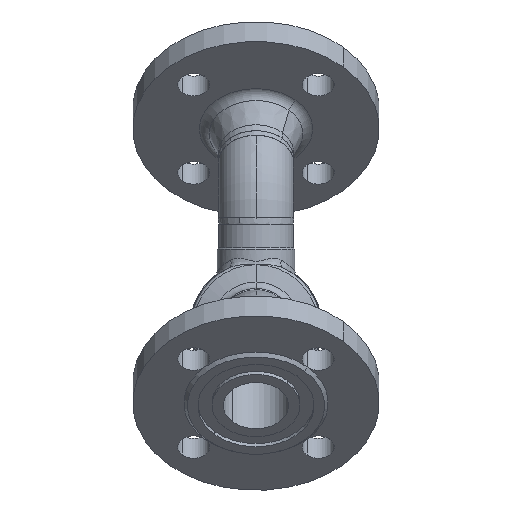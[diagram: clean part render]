
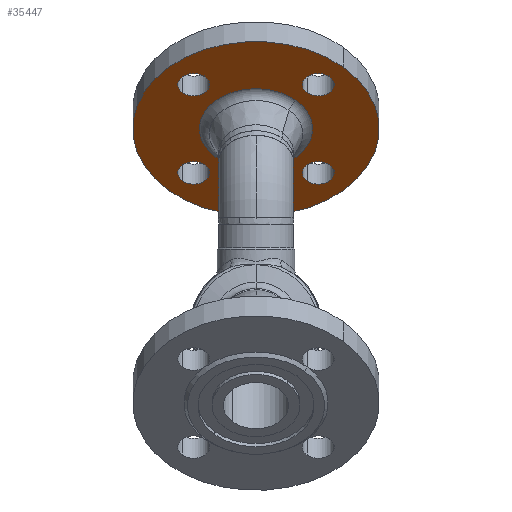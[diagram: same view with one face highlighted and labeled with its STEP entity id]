
A CAD part, front view. The second image highlights one B-rep face of the part: STEP entity #35447.
In plain terms, the highlighted planar face has unit normal (0, -0.707, -0.707) as drawn and (0, 1, 0) by its records, which use the part's own axes.
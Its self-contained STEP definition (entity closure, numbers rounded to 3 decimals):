
#32839 = EDGE_CURVE ( 'NONE', #35243, #32231, #35404, .T. ) ;
#16972 = ORIENTED_EDGE ( 'NONE', *, *, #8260, .F. ) ;
#49751 = ORIENTED_EDGE ( 'NONE', *, *, #48749, .F. ) ;
#33387 = ORIENTED_EDGE ( 'NONE', *, *, #32380, .F. ) ;
#34030 = CARTESIAN_POINT ( 'NONE',  ( -9., 18., 50. ) ) ;
#50569 = CARTESIAN_POINT ( 'NONE',  ( 41., 18., 0. ) ) ;
#1662 = EDGE_LOOP ( 'NONE', ( #54717, #51825 ) ) ;
#34424 = CIRCLE ( 'NONE', #34425, 9. ) ;
#34425 = AXIS2_PLACEMENT_3D ( 'NONE', #34426, #34427, #34428 ) ;
#34426 = CARTESIAN_POINT ( 'NONE',  ( 0., 18., 50. ) ) ;
#34427 = DIRECTION ( 'NONE',  ( 0., 1., 0. ) ) ;
#34428 = DIRECTION ( 'NONE',  ( 0., 0., -1. ) ) ;
#50815 = CIRCLE ( 'NONE', #50816, 70. ) ;
#50816 = AXIS2_PLACEMENT_3D ( 'NONE', #50817, #50818, #50819 ) ;
#50817 = CARTESIAN_POINT ( 'NONE',  ( 0., 18., 0. ) ) ;
#50818 = DIRECTION ( 'NONE',  ( 0., 1., 0. ) ) ;
#50819 = DIRECTION ( 'NONE',  ( -1., 0., 0. ) ) ;
#18275 = EDGE_CURVE ( 'NONE', #7455, #11446, #43655, .T. ) ;
#51166 = EDGE_LOOP ( 'NONE', ( #49751, #47337 ) ) ;
#34789 = EDGE_LOOP ( 'NONE', ( #33387, #2524 ) ) ;
#34844 = CIRCLE ( 'NONE', #34845, 9. ) ;
#34845 = AXIS2_PLACEMENT_3D ( 'NONE', #34846, #34847, #34848 ) ;
#34846 = CARTESIAN_POINT ( 'NONE',  ( 0., 18., -50. ) ) ;
#34847 = DIRECTION ( 'NONE',  ( 0., 1., 0. ) ) ;
#34848 = DIRECTION ( 'NONE',  ( 0., 0., 1. ) ) ;
#51273 = CIRCLE ( 'NONE', #51274, 9. ) ;
#51274 = AXIS2_PLACEMENT_3D ( 'NONE', #51275, #51276, #51277 ) ;
#51275 = CARTESIAN_POINT ( 'NONE',  ( 50., 18., 0. ) ) ;
#51276 = DIRECTION ( 'NONE',  ( 0., 1., 0. ) ) ;
#51277 = DIRECTION ( 'NONE',  ( -1., 0., 0. ) ) ;
#51278 = CARTESIAN_POINT ( 'NONE',  ( 32.147, 18., 0. ) ) ;
#51430 = FACE_BOUND ( 'NONE', #34789, .T. ) ;
#51431 = FACE_BOUND ( 'NONE', #1662, .T. ) ;
#51432 = FACE_BOUND ( 'NONE', #51166, .T. ) ;
#51433 = FACE_BOUND ( 'NONE', #46678, .T. ) ;
#51434 = FACE_BOUND ( 'NONE', #16311, .T. ) ;
#51435 = FACE_OUTER_BOUND ( 'NONE', #12707, .T. ) ;
#51436 = PLANE ( 'NONE',  #51437 ) ;
#51437 = AXIS2_PLACEMENT_3D ( 'NONE', #51438, #51439, #51440 ) ;
#51438 = CARTESIAN_POINT ( 'NONE',  ( 70., 18., 0. ) ) ;
#51439 = DIRECTION ( 'NONE',  ( 0., -1., 0. ) ) ;
#51440 = DIRECTION ( 'NONE',  ( 1., 0., 0. ) ) ;
#35243 = VERTEX_POINT ( 'NONE', #51278 ) ;
#51624 = VERTEX_POINT ( 'NONE', #34030 ) ;
#2524 = ORIENTED_EDGE ( 'NONE', *, *, #28798, .F. ) ;
#35404 = CIRCLE ( 'NONE', #35405, 32.147 ) ;
#35405 = AXIS2_PLACEMENT_3D ( 'NONE', #35406, #35407, #35408 ) ;
#35406 = CARTESIAN_POINT ( 'NONE',  ( 0., 18., 0. ) ) ;
#35407 = DIRECTION ( 'NONE',  ( 0., 1., 0. ) ) ;
#35408 = DIRECTION ( 'NONE',  ( -1., 0., 0. ) ) ;
#35447 = ADVANCED_FACE ( 'NONE', ( #51430, #51431, #51432, #51433, #51434, #51435 ), #51436, .F. ) ;
#51825 = ORIENTED_EDGE ( 'NONE', *, *, #40244, .F. ) ;
#19393 = CARTESIAN_POINT ( 'NONE',  ( 9., 18., -50. ) ) ;
#52234 = EDGE_CURVE ( 'NONE', #54665, #51624, #34424, .T. ) ;
#52349 = CIRCLE ( 'NONE', #52350, 32.147 ) ;
#52350 = AXIS2_PLACEMENT_3D ( 'NONE', #52351, #52352, #52353 ) ;
#52351 = CARTESIAN_POINT ( 'NONE',  ( 0., 18., 0. ) ) ;
#52352 = DIRECTION ( 'NONE',  ( 0., 1., 0. ) ) ;
#52353 = DIRECTION ( 'NONE',  ( -1., 0., 0. ) ) ;
#36504 = EDGE_CURVE ( 'NONE', #32231, #35243, #52349, .T. ) ;
#20337 = VERTEX_POINT ( 'NONE', #46093 ) ;
#53703 = EDGE_CURVE ( 'NONE', #39639, #43121, #48847, .T. ) ;
#20950 = EDGE_CURVE ( 'NONE', #20337, #23373, #46706, .T. ) ;
#21406 = CARTESIAN_POINT ( 'NONE',  ( -32.147, 18., 0. ) ) ;
#54665 = VERTEX_POINT ( 'NONE', #40215 ) ;
#54717 = ORIENTED_EDGE ( 'NONE', *, *, #53703, .F. ) ;
#38338 = CARTESIAN_POINT ( 'NONE',  ( -59., 18., 0. ) ) ;
#38699 = CIRCLE ( 'NONE', #38700, 9. ) ;
#38700 = AXIS2_PLACEMENT_3D ( 'NONE', #38701, #38702, #38703 ) ;
#38701 = CARTESIAN_POINT ( 'NONE',  ( -50., 18., 0. ) ) ;
#38702 = DIRECTION ( 'NONE',  ( 0., 1., 0. ) ) ;
#38703 = DIRECTION ( 'NONE',  ( 1., 0., 0. ) ) ;
#39639 = VERTEX_POINT ( 'NONE', #38338 ) ;
#23373 = VERTEX_POINT ( 'NONE', #32365 ) ;
#40175 = CIRCLE ( 'NONE', #40211, 9. ) ;
#7455 = VERTEX_POINT ( 'NONE', #50569 ) ;
#40211 = AXIS2_PLACEMENT_3D ( 'NONE', #40212, #40213, #40214 ) ;
#40212 = CARTESIAN_POINT ( 'NONE',  ( 0., 18., -50. ) ) ;
#40213 = DIRECTION ( 'NONE',  ( 0., 1., 0. ) ) ;
#40214 = DIRECTION ( 'NONE',  ( 0., 0., 1. ) ) ;
#40215 = CARTESIAN_POINT ( 'NONE',  ( 9., 18., 50. ) ) ;
#40244 = EDGE_CURVE ( 'NONE', #43121, #39639, #38699, .T. ) ;
#7655 = EDGE_CURVE ( 'NONE', #23373, #20337, #50815, .T. ) ;
#8260 = EDGE_CURVE ( 'NONE', #11446, #7455, #51273, .T. ) ;
#8345 = CARTESIAN_POINT ( 'NONE',  ( 59., 18., 0. ) ) ;
#41730 = CARTESIAN_POINT ( 'NONE',  ( -41., 18., 0. ) ) ;
#8991 = ORIENTED_EDGE ( 'NONE', *, *, #7655, .T. ) ;
#43121 = VERTEX_POINT ( 'NONE', #41730 ) ;
#10838 = CARTESIAN_POINT ( 'NONE',  ( -9., 18., -50. ) ) ;
#10842 = ORIENTED_EDGE ( 'NONE', *, *, #20950, .T. ) ;
#43655 = CIRCLE ( 'NONE', #43656, 9. ) ;
#43656 = AXIS2_PLACEMENT_3D ( 'NONE', #43657, #43658, #43659 ) ;
#43657 = CARTESIAN_POINT ( 'NONE',  ( 50., 18., 0. ) ) ;
#43658 = DIRECTION ( 'NONE',  ( 0., 1., 0. ) ) ;
#43659 = DIRECTION ( 'NONE',  ( -1., 0., 0. ) ) ;
#11446 = VERTEX_POINT ( 'NONE', #8345 ) ;
#28193 = VERTEX_POINT ( 'NONE', #10838 ) ;
#28798 = EDGE_CURVE ( 'NONE', #31216, #28193, #40175, .T. ) ;
#45260 = ORIENTED_EDGE ( 'NONE', *, *, #18275, .F. ) ;
#12707 = EDGE_LOOP ( 'NONE', ( #10842, #8991 ) ) ;
#46093 = CARTESIAN_POINT ( 'NONE',  ( -70., 18., 0. ) ) ;
#13502 = ORIENTED_EDGE ( 'NONE', *, *, #32839, .F. ) ;
#46678 = EDGE_LOOP ( 'NONE', ( #45260, #16972 ) ) ;
#46706 = CIRCLE ( 'NONE', #46707, 70. ) ;
#46707 = AXIS2_PLACEMENT_3D ( 'NONE', #46708, #46709, #46710 ) ;
#46708 = CARTESIAN_POINT ( 'NONE',  ( 0., 18., 0. ) ) ;
#46709 = DIRECTION ( 'NONE',  ( 0., 1., 0. ) ) ;
#46710 = DIRECTION ( 'NONE',  ( -1., 0., 0. ) ) ;
#47337 = ORIENTED_EDGE ( 'NONE', *, *, #52234, .F. ) ;
#31216 = VERTEX_POINT ( 'NONE', #19393 ) ;
#14911 = ORIENTED_EDGE ( 'NONE', *, *, #36504, .F. ) ;
#32021 = CIRCLE ( 'NONE', #32022, 9. ) ;
#32022 = AXIS2_PLACEMENT_3D ( 'NONE', #32023, #32057, #32058 ) ;
#32023 = CARTESIAN_POINT ( 'NONE',  ( 0., 18., 50. ) ) ;
#32057 = DIRECTION ( 'NONE',  ( 0., 1., 0. ) ) ;
#32058 = DIRECTION ( 'NONE',  ( 0., 0., -1. ) ) ;
#32231 = VERTEX_POINT ( 'NONE', #21406 ) ;
#32365 = CARTESIAN_POINT ( 'NONE',  ( 70., 18., 0. ) ) ;
#48749 = EDGE_CURVE ( 'NONE', #51624, #54665, #32021, .T. ) ;
#32380 = EDGE_CURVE ( 'NONE', #28193, #31216, #34844, .T. ) ;
#48847 = CIRCLE ( 'NONE', #48848, 9. ) ;
#48848 = AXIS2_PLACEMENT_3D ( 'NONE', #48849, #48886, #48887 ) ;
#48849 = CARTESIAN_POINT ( 'NONE',  ( -50., 18., 0. ) ) ;
#48886 = DIRECTION ( 'NONE',  ( 0., 1., 0. ) ) ;
#48887 = DIRECTION ( 'NONE',  ( 1., 0., 0. ) ) ;
#16311 = EDGE_LOOP ( 'NONE', ( #14911, #13502 ) ) ;
